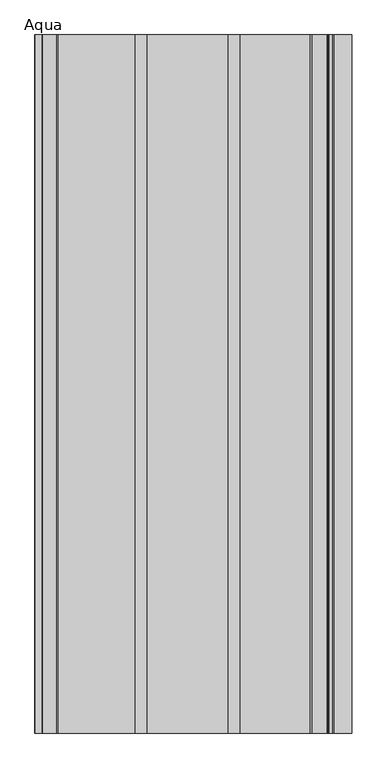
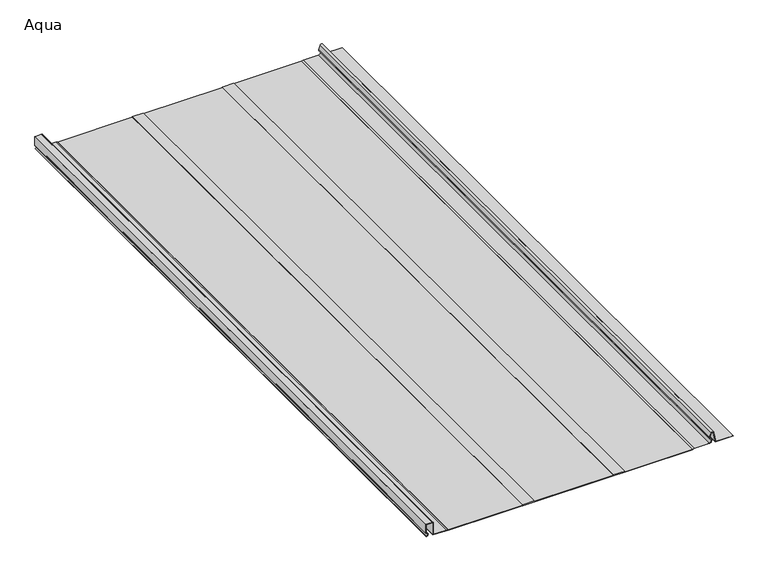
"""IFC4 building model written with IfcOpenShell, lengths in millimetres: proxy geometry, AQUAPLAST - Panel Dachowy i Elewacyjny Aqua : Aqua."""

from ifc_helpers import new_model, si_unit, point, frame, frame_2d, origin, place, context, project, spatial, polyline, circle_curve, trimmed, segment, composite_curve, outline, extrude, source, transform, mapped, element, save


def aqua_69495d72(model_context):
    return source(origin(), model_context, "Body", "SweptSolid", [
        extrude(outline(polyline([(50.8, 78.4), (51.6, 78.4), (51.6, 58.4), (50.8, 58.4), (50.8, -81.6), (51.6, -81.6), (51.6, -101.6), (50.8, -101.6), (50.8, -234.0), (50.0, -234.0), (50.0, 198.2000503), (50.8, 198.2000503), (50.8, 78.4)])), frame((0.0, -1200.0, 0.0), z_axis=(0.0, 1.0, 0.0), x_axis=(0.0, 0.0, 1.0)), (0.0, 0.0, 1.0), 1200.0),
        extrude(outline(composite_curve([segment(polyline([(50.8, 270.9), (50.8, 240.520912)]), True, "CONTINUOUS"), segment(trimmed(circle_curve(frame_2d((51.4640676, 240.520912)), 0.6640676), [point((50.8, 240.520912))], [point((51.3501315, 239.8666916))], True, "CARTESIAN"), True, "CONTINUOUS"), segment(polyline([(51.3501315, 239.8666916), (68.7653554, 236.8337349)]), True, "CONTINUOUS"), segment(trimmed(circle_curve(frame_2d((68.1818617, 234.1906389)), 2.7067363), [point((68.7653554, 236.8337349))], [point((69.5352298, 231.8465366))], False, "CARTESIAN"), True, "CONTINUOUS"), segment(polyline([(69.5352298, 231.8465366), (62.1941629, 228.8862764)]), True, "CONTINUOUS"), segment(trimmed(circle_curve(frame_2d((61.2676679, 231.1838657)), 2.4773594), [point((62.1941629, 228.8862764))], [point((59.0024093, 230.1809133))], False, "CARTESIAN"), True, "CONTINUOUS"), segment(trimmed(circle_curve(frame_2d((55.4667311, 228.6154775)), 3.8667311), [point((59.0024093, 230.1809133))], [point((51.6, 228.6154775))], True, "CARTESIAN"), True, "CONTINUOUS"), segment(polyline([(51.6, 228.6154775), (51.6, 201.7000503), (50.8, 198.2000503), (50.0, 198.2000503), (50.8, 201.7000503), (50.8, 228.4563021)]), True, "CONTINUOUS"), segment(trimmed(circle_curve(frame_2d((55.5014361, 228.4563021)), 4.7014361), [point((50.8, 228.4563021))], [point((59.7513874, 230.4666293))], False, "CARTESIAN"), True, "CONTINUOUS"), segment(trimmed(circle_curve(frame_2d((61.2676679, 231.1838657)), 1.6773594), [point((59.7513874, 230.4666293))], [point((61.8934079, 229.6275932))], True, "CARTESIAN"), True, "CONTINUOUS"), segment(polyline([(61.8934079, 229.6275932), (69.1352298, 232.5393569)]), True, "CONTINUOUS"), segment(trimmed(circle_curve(frame_2d((68.1818617, 234.1906389)), 1.9067363), [point((69.1352298, 232.5393569))], [point((68.4803326, 236.0738697))], True, "CARTESIAN"), True, "CONTINUOUS"), segment(polyline([(68.4803326, 236.0738697), (50.6241817, 238.9038691)]), True, "CONTINUOUS"), segment(trimmed(circle_curve(frame_2d((50.7400208, 239.6347673)), 0.7400208), [point((50.6241817, 238.9038691))], [point((50.0, 239.6347673))], False, "CARTESIAN"), True, "CONTINUOUS"), segment(polyline([(50.0, 239.6347673), (50.0, 270.9), (50.8, 270.9)]), True, "CONTINUOUS")], self_intersect=False)), frame((0.0, -1200.0, 0.0), z_axis=(0.0, 1.0, 0.0), x_axis=(0.0, 0.0, 1.0)), (0.0, 0.0, 1.0), 1200.0),
        extrude(outline(composite_curve([segment(polyline([(51.6, -237.5), (51.6, -260.6)]), True, "CONTINUOUS"), segment(trimmed(circle_curve(frame_2d((52.1, -260.6)), 0.5), [point((51.6, -260.6))], [point((52.1, -261.1))], True, "CARTESIAN"), True, "CONTINUOUS"), segment(polyline([(52.1, -261.1), (74.5, -261.1)]), True, "CONTINUOUS"), segment(trimmed(circle_curve(frame_2d((74.5, -261.6)), 0.5), [point((74.5, -261.1))], [point((75.0, -261.6))], False, "CARTESIAN"), True, "CONTINUOUS"), segment(polyline([(75.0, -261.6), (75.0, -273.6)]), True, "CONTINUOUS"), segment(trimmed(circle_curve(frame_2d((74.5, -273.6)), 0.5), [point((75.0, -273.6))], [point((74.5, -274.1))], False, "CARTESIAN"), True, "CONTINUOUS"), segment(polyline([(74.5, -274.1), (58.8039223, -274.1)]), True, "CONTINUOUS"), segment(trimmed(circle_curve(frame_2d((58.8039223, -273.4250457)), 0.6749543), [point((58.8039223, -274.1))], [point((58.1289934, -273.4191923))], False, "CARTESIAN"), True, "CONTINUOUS"), segment(trimmed(circle_curve(frame_2d((55.3847863, -273.4191923)), 2.7442071), [point((58.1289934, -273.4191923))], [point((52.6405793, -273.4191923))], True, "CARTESIAN"), True, "CONTINUOUS"), segment(polyline([(52.6405793, -273.4191923), (51.8403383, -273.4191923)]), True, "CONTINUOUS"), segment(trimmed(circle_curve(frame_2d((55.4137846, -273.4191923)), 3.5734462), [point((51.8403383, -273.4191923))], [point((58.9478642, -272.8902321))], False, "CARTESIAN"), True, "CONTINUOUS"), segment(trimmed(circle_curve(frame_2d((59.7850119, -272.4539484)), 0.9440125), [point((58.9478642, -272.8902321))], [point((59.7850119, -273.397961))], True, "CARTESIAN"), True, "CONTINUOUS"), segment(polyline([(59.7850119, -273.397961), (73.6993591, -273.397961)]), True, "CONTINUOUS"), segment(trimmed(circle_curve(frame_2d((73.6993591, -272.8966773)), 0.5012837), [point((73.6993591, -273.397961))], [point((74.2006428, -272.8966773))], True, "CARTESIAN"), True, "CONTINUOUS"), segment(polyline([(74.2006428, -272.8966773), (74.2006428, -262.4001579)]), True, "CONTINUOUS"), segment(trimmed(circle_curve(frame_2d((73.7003195, -262.4001579)), 0.5003233), [point((74.2006428, -262.4001579))], [point((73.7003195, -261.8998346))], True, "CARTESIAN"), True, "CONTINUOUS"), segment(polyline([(73.7003195, -261.8998346), (51.2999699, -261.8998346)]), True, "CONTINUOUS"), segment(trimmed(circle_curve(frame_2d((51.2999699, -261.3999248)), 0.4999098), [point((51.2999699, -261.8998346))], [point((50.8000601, -261.3999248))], False, "CARTESIAN"), True, "CONTINUOUS"), segment(polyline([(50.8000601, -261.3999248), (50.8000601, -237.5), (50.0, -234.0), (50.8, -234.0), (51.6, -237.5)]), True, "CONTINUOUS")], self_intersect=False)), frame((0.0, -1200.0, 0.0), z_axis=(0.0, 1.0, 0.0), x_axis=(0.0, 0.0, 1.0)), (0.0, 0.0, 1.0), 1200.0),
    ])


if __name__ == "__main__":
    model = new_model("IFC4")
    model_context = context("Model", 3, world=origin())
    ifc_project = project(units=[si_unit("LENGTHUNIT", "METRE", prefix="MILLI")], contexts=[model_context])
    site = spatial("IfcSite", under=ifc_project)
    building = spatial("IfcBuilding", under=site)
    placement = place(None, origin())
    aqua_shape = aqua_69495d72(model_context)
    element("IfcBuildingElementProxy", 1, Name="AQUAPLAST - Panel Dachowy i Elewacyjny Aqua : Aqua", ObjectType="AQUAPLAST - Panel Dachowy i Elewacyjny Aqua : Aqua", at=placement, inside=building, context=model_context, shape_type="MappedRepresentation", body=[
        mapped(aqua_shape, transform((0.0, 0.0, 0.0), x_axis=(1.0, 0.0, 0.0), y_axis=(0.0, 1.0, 0.0), z_axis=(0.0, 0.0, 1.0))),
    ])
    save(model, "model.ifc")
